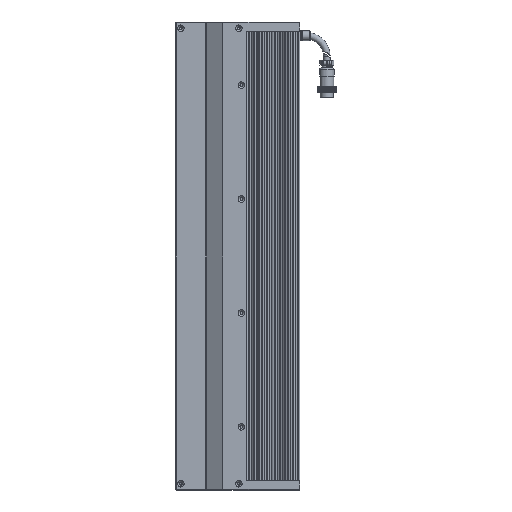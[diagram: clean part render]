
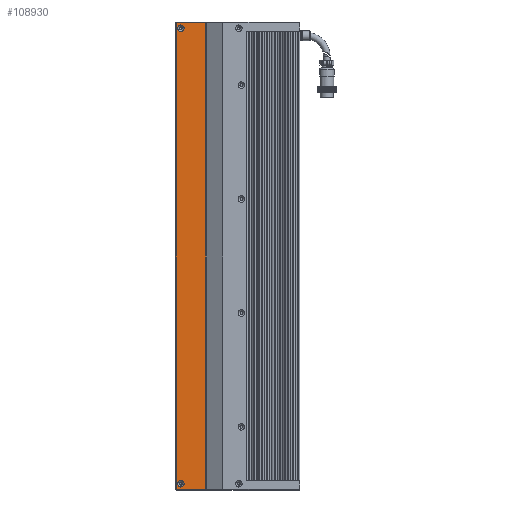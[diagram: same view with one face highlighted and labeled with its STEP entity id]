
A CAD part, left-side view. The second image highlights one B-rep face of the part: STEP entity #108930.
In plain terms, the highlighted planar face has unit normal (-1, 0, 0).
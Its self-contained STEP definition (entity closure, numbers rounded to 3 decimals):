
#6187 = EDGE_CURVE ( 'NONE', #30991, #76086, #118114, .T. ) ;
#7098 = CARTESIAN_POINT ( 'NONE',  ( -15.462, -7.561, 569.5 ) ) ;
#17346 = EDGE_LOOP ( 'NONE', ( #68312 ) ) ;
#20134 = CARTESIAN_POINT ( 'NONE',  ( -15.462, 16.939, 125.5 ) ) ;
#23105 = EDGE_LOOP ( 'NONE', ( #83825, #107158, #93262, #108817 ) ) ;
#24243 = DIRECTION ( 'NONE',  ( 0., 0., -1. ) ) ;
#24824 = CARTESIAN_POINT ( 'NONE',  ( -15.462, -7.561, 120. ) ) ;
#25378 = AXIS2_PLACEMENT_3D ( 'NONE', #20134, #41429, #109560 ) ;
#26953 = CARTESIAN_POINT ( 'NONE',  ( -15.462, 21.439, 569.5 ) ) ;
#28947 = FACE_BOUND ( 'NONE', #44426, .T. ) ;
#30991 = VERTEX_POINT ( 'NONE', #79035 ) ;
#31960 = EDGE_CURVE ( 'NONE', #116146, #30991, #111967, .T. ) ;
#33476 = FACE_OUTER_BOUND ( 'NONE', #23105, .T. ) ;
#37233 = VECTOR ( 'NONE', #101963, 1000. ) ;
#38003 = DIRECTION ( 'NONE',  ( 0., 0., 1. ) ) ;
#41429 = DIRECTION ( 'NONE',  ( -1., 0., 0. ) ) ;
#42452 = EDGE_CURVE ( 'NONE', #78442, #116146, #122504, .T. ) ;
#44426 = EDGE_LOOP ( 'NONE', ( #53426 ) ) ;
#45079 = DIRECTION ( 'NONE',  ( 1., 0., 0. ) ) ;
#49997 = VERTEX_POINT ( 'NONE', #108321 ) ;
#50512 = EDGE_CURVE ( 'NONE', #97251, #97251, #52780, .T. ) ;
#52780 = CIRCLE ( 'NONE', #25378, 3.15 ) ;
#53066 = CARTESIAN_POINT ( 'NONE',  ( -15.462, -6.987, 571. ) ) ;
#53426 = ORIENTED_EDGE ( 'NONE', *, *, #50512, .F. ) ;
#54965 = CARTESIAN_POINT ( 'NONE',  ( -15.462, -7.561, 571. ) ) ;
#60964 = EDGE_CURVE ( 'NONE', #76086, #78442, #119980, .T. ) ;
#65203 = VECTOR ( 'NONE', #24243, 1000. ) ;
#68312 = ORIENTED_EDGE ( 'NONE', *, *, #100656, .F. ) ;
#69968 = CARTESIAN_POINT ( 'NONE',  ( -15.462, 21.439, 120. ) ) ;
#70494 = CARTESIAN_POINT ( 'NONE',  ( -15.462, 16.939, 128.65 ) ) ;
#74548 = DIRECTION ( 'NONE',  ( 0., -1., 0. ) ) ;
#76086 = VERTEX_POINT ( 'NONE', #53066 ) ;
#78442 = VERTEX_POINT ( 'NONE', #104874 ) ;
#79035 = CARTESIAN_POINT ( 'NONE',  ( -15.462, 21.439, 571. ) ) ;
#83825 = ORIENTED_EDGE ( 'NONE', *, *, #31960, .F. ) ;
#84859 = AXIS2_PLACEMENT_3D ( 'NONE', #7098, #45079, #114011 ) ;
#85296 = FACE_BOUND ( 'NONE', #17346, .T. ) ;
#91055 = AXIS2_PLACEMENT_3D ( 'NONE', #93903, #94332, #113432 ) ;
#93262 = ORIENTED_EDGE ( 'NONE', *, *, #60964, .F. ) ;
#93903 = CARTESIAN_POINT ( 'NONE',  ( -15.462, 16.939, 565.5 ) ) ;
#94332 = DIRECTION ( 'NONE',  ( -1., 0., 0. ) ) ;
#97251 = VERTEX_POINT ( 'NONE', #70494 ) ;
#100656 = EDGE_CURVE ( 'NONE', #49997, #49997, #113386, .T. ) ;
#101963 = DIRECTION ( 'NONE',  ( 0., 1., 0. ) ) ;
#103425 = CARTESIAN_POINT ( 'NONE',  ( -15.462, -6.987, 569.5 ) ) ;
#104874 = CARTESIAN_POINT ( 'NONE',  ( -15.462, -6.987, 120. ) ) ;
#107158 = ORIENTED_EDGE ( 'NONE', *, *, #42452, .F. ) ;
#108321 = CARTESIAN_POINT ( 'NONE',  ( -15.462, 16.939, 568.65 ) ) ;
#108817 = ORIENTED_EDGE ( 'NONE', *, *, #6187, .F. ) ;
#108892 = VECTOR ( 'NONE', #38003, 1000. ) ;
#108930 = ADVANCED_FACE ( 'NONE', ( #28947, #85296, #33476 ), #123354, .F. ) ;
#109560 = DIRECTION ( 'NONE',  ( 0., 0., 1. ) ) ;
#111967 = LINE ( 'NONE', #26953, #108892 ) ;
#113386 = CIRCLE ( 'NONE', #91055, 3.15 ) ;
#113432 = DIRECTION ( 'NONE',  ( 0., 0., 1. ) ) ;
#113601 = VECTOR ( 'NONE', #74548, 1000. ) ;
#114011 = DIRECTION ( 'NONE',  ( 0., 0., -1. ) ) ;
#116146 = VERTEX_POINT ( 'NONE', #69968 ) ;
#118114 = LINE ( 'NONE', #54965, #113601 ) ;
#119980 = LINE ( 'NONE', #103425, #65203 ) ;
#122504 = LINE ( 'NONE', #24824, #37233 ) ;
#123354 = PLANE ( 'NONE',  #84859 ) ;
